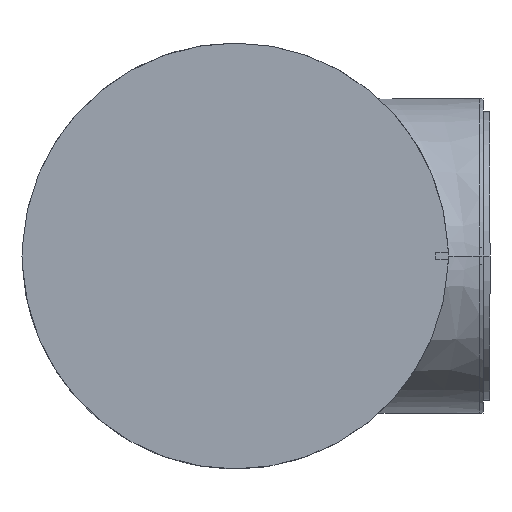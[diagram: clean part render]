
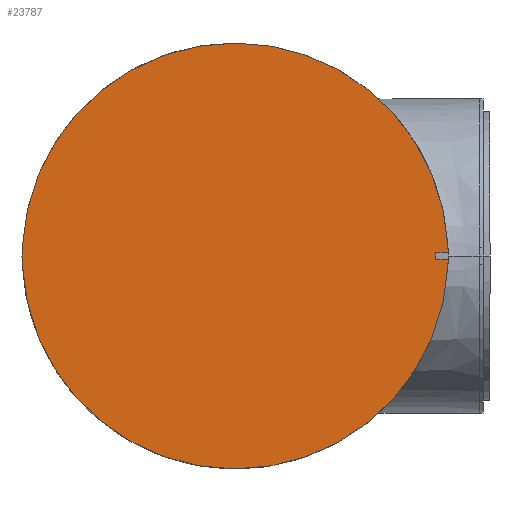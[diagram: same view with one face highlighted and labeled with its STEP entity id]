
A CAD part, left-side view. The second image highlights one B-rep face of the part: STEP entity #23787.
In plain terms, the highlighted planar face has unit normal (-1, 0, 0).
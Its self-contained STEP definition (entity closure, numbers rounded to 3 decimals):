
#510 = ORIENTED_EDGE ( 'NONE', *, *, #18421, .T. ) ;
#1050 = CARTESIAN_POINT ( 'NONE',  ( 401., -0.931, 1301.5 ) ) ;
#1119 = EDGE_CURVE ( 'NONE', #13200, #38315, #48306, .T. ) ;
#1666 = LINE ( 'NONE', #59555, #39970 ) ;
#1697 = LINE ( 'NONE', #31076, #19854 ) ;
#1975 = DIRECTION ( 'NONE',  ( 0., 1., 0. ) ) ;
#3061 = EDGE_CURVE ( 'NONE', #19193, #21709, #1666, .T. ) ;
#3622 = ORIENTED_EDGE ( 'NONE', *, *, #1119, .T. ) ;
#6694 = CARTESIAN_POINT ( 'NONE',  ( 401., 60.1, 1302.5 ) ) ;
#6818 = CARTESIAN_POINT ( 'NONE',  ( 401., 60.1, 1302.5 ) ) ;
#7014 = CARTESIAN_POINT ( 'NONE',  ( 401., 60.1, 1302.5 ) ) ;
#8526 = ORIENTED_EDGE ( 'NONE', *, *, #49792, .T. ) ;
#8584 = CARTESIAN_POINT ( 'NONE',  ( 401., 60.1, 1302.5 ) ) ;
#8625 = AXIS2_PLACEMENT_3D ( 'NONE', #7014, #45177, #26397 ) ;
#10754 = DIRECTION ( 'NONE',  ( 0., -0.052, -0.999 ) ) ;
#11270 = ORIENTED_EDGE ( 'NONE', *, *, #50492, .T. ) ;
#11307 = VERTEX_POINT ( 'NONE', #46412 ) ;
#12393 = CARTESIAN_POINT ( 'NONE',  ( 401., -0.931, 1303.5 ) ) ;
#12438 = DIRECTION ( 'NONE',  ( -1., 0., 0. ) ) ;
#12686 = CARTESIAN_POINT ( 'NONE',  ( 401., 8.1, 1301.5 ) ) ;
#13200 = VERTEX_POINT ( 'NONE', #13419 ) ;
#13419 = CARTESIAN_POINT ( 'NONE',  ( 401., -0.816, 1305.692 ) ) ;
#14584 = ORIENTED_EDGE ( 'NONE', *, *, #51409, .T. ) ;
#16394 = DIRECTION ( 'NONE',  ( 0., 0., 1. ) ) ;
#16788 = ORIENTED_EDGE ( 'NONE', *, *, #3061, .F. ) ;
#16897 = VERTEX_POINT ( 'NONE', #42709 ) ;
#17113 = EDGE_CURVE ( 'NONE', #57301, #51642, #44719, .T. ) ;
#17323 = DIRECTION ( 'NONE',  ( -1., 0., 0. ) ) ;
#17618 = DIRECTION ( 'NONE',  ( -1., 0., 0. ) ) ;
#17659 = VECTOR ( 'NONE', #43012, 1000. ) ;
#17881 = EDGE_LOOP ( 'NONE', ( #20625, #61749, #16788, #510, #3622, #57113, #14584, #8526, #11270, #28231 ) ) ;
#17882 = CARTESIAN_POINT ( 'NONE',  ( 401., 60.1, 1363.5 ) ) ;
#18421 = EDGE_CURVE ( 'NONE', #19193, #13200, #28609, .T. ) ;
#19193 = VERTEX_POINT ( 'NONE', #12393 ) ;
#19854 = VECTOR ( 'NONE', #49548, 1000. ) ;
#20625 = ORIENTED_EDGE ( 'NONE', *, *, #23131, .F. ) ;
#20703 = VECTOR ( 'NONE', #51164, 1000. ) ;
#21156 = VERTEX_POINT ( 'NONE', #24829 ) ;
#21709 = VERTEX_POINT ( 'NONE', #22817 ) ;
#22817 = CARTESIAN_POINT ( 'NONE',  ( 401., 2.609, 1303.5 ) ) ;
#22864 = CIRCLE ( 'NONE', #42838, 57.5 ) ;
#23131 = EDGE_CURVE ( 'NONE', #11307, #51642, #56483, .T. ) ;
#23787 = ADVANCED_FACE ( 'NONE', ( #41393 ), #32294, .T. ) ;
#24829 = CARTESIAN_POINT ( 'NONE',  ( 401., 121.016, 1305.692 ) ) ;
#25938 = CARTESIAN_POINT ( 'NONE',  ( 401., -0.984, 1302.5 ) ) ;
#26199 = DIRECTION ( 'NONE',  ( 0., 0., 1. ) ) ;
#26397 = DIRECTION ( 'NONE',  ( 0., 0., 1. ) ) ;
#26902 = CARTESIAN_POINT ( 'NONE',  ( 401., -0.816, 1299.308 ) ) ;
#28231 = ORIENTED_EDGE ( 'NONE', *, *, #17113, .T. ) ;
#28609 = LINE ( 'NONE', #53042, #17659 ) ;
#30768 = EDGE_CURVE ( 'NONE', #38315, #21156, #36581, .T. ) ;
#31076 = CARTESIAN_POINT ( 'NONE',  ( 401., 121.016, 1305.692 ) ) ;
#32294 = PLANE ( 'NONE',  #48713 ) ;
#33269 = AXIS2_PLACEMENT_3D ( 'NONE', #6694, #17323, #16394 ) ;
#34796 = VECTOR ( 'NONE', #10754, 1000. ) ;
#36396 = CARTESIAN_POINT ( 'NONE',  ( 401., 121.184, 1302.5 ) ) ;
#36581 = CIRCLE ( 'NONE', #8625, 61. ) ;
#36638 = VECTOR ( 'NONE', #39419, 1000. ) ;
#36744 = DIRECTION ( 'NONE',  ( -1., 0., 0. ) ) ;
#38315 = VERTEX_POINT ( 'NONE', #17882 ) ;
#39419 = DIRECTION ( 'NONE',  ( 0., -0.052, 0.999 ) ) ;
#39970 = VECTOR ( 'NONE', #1975, 1000. ) ;
#41393 = FACE_OUTER_BOUND ( 'NONE', #17881, .T. ) ;
#42709 = CARTESIAN_POINT ( 'NONE',  ( 401., 121.016, 1299.308 ) ) ;
#42838 = AXIS2_PLACEMENT_3D ( 'NONE', #8584, #36744, #46750 ) ;
#43012 = DIRECTION ( 'NONE',  ( 0., 0.052, 0.999 ) ) ;
#44719 = LINE ( 'NONE', #25938, #36638 ) ;
#44829 = LINE ( 'NONE', #48921, #34796 ) ;
#45177 = DIRECTION ( 'NONE',  ( -1., 0., 0. ) ) ;
#45703 = VERTEX_POINT ( 'NONE', #36396 ) ;
#46412 = CARTESIAN_POINT ( 'NONE',  ( 401., 2.609, 1301.5 ) ) ;
#46750 = DIRECTION ( 'NONE',  ( 0., 0., 1. ) ) ;
#48306 = CIRCLE ( 'NONE', #33269, 61. ) ;
#48713 = AXIS2_PLACEMENT_3D ( 'NONE', #60508, #17618, #55806 ) ;
#48834 = CIRCLE ( 'NONE', #61808, 61. ) ;
#48921 = CARTESIAN_POINT ( 'NONE',  ( 401., 121.016, 1299.308 ) ) ;
#49548 = DIRECTION ( 'NONE',  ( 0., 0.052, -0.999 ) ) ;
#49792 = EDGE_CURVE ( 'NONE', #45703, #16897, #44829, .T. ) ;
#50492 = EDGE_CURVE ( 'NONE', #16897, #57301, #48834, .T. ) ;
#51164 = DIRECTION ( 'NONE',  ( 0., -1., 0. ) ) ;
#51409 = EDGE_CURVE ( 'NONE', #21156, #45703, #1697, .T. ) ;
#51642 = VERTEX_POINT ( 'NONE', #1050 ) ;
#53042 = CARTESIAN_POINT ( 'NONE',  ( 401., -0.984, 1302.5 ) ) ;
#55806 = DIRECTION ( 'NONE',  ( 0., 0., 1. ) ) ;
#56483 = LINE ( 'NONE', #12686, #20703 ) ;
#56562 = EDGE_CURVE ( 'NONE', #11307, #21709, #22864, .T. ) ;
#57113 = ORIENTED_EDGE ( 'NONE', *, *, #30768, .T. ) ;
#57301 = VERTEX_POINT ( 'NONE', #26902 ) ;
#59555 = CARTESIAN_POINT ( 'NONE',  ( 401., -1.9, 1303.5 ) ) ;
#60508 = CARTESIAN_POINT ( 'NONE',  ( 401., 60.1, 1302.5 ) ) ;
#61749 = ORIENTED_EDGE ( 'NONE', *, *, #56562, .T. ) ;
#61808 = AXIS2_PLACEMENT_3D ( 'NONE', #6818, #12438, #26199 ) ;
